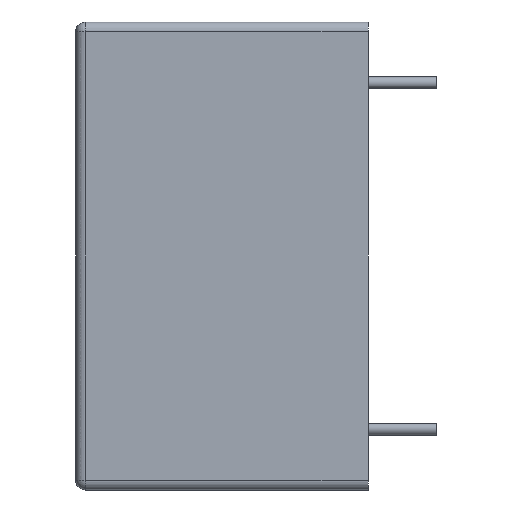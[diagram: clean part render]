
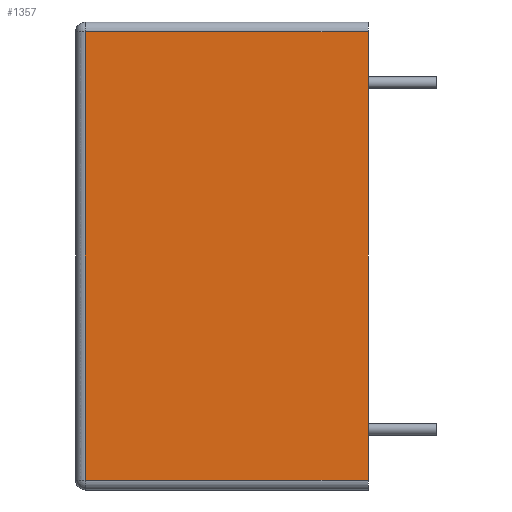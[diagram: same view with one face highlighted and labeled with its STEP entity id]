
A CAD part, left-side view. The second image highlights one B-rep face of the part: STEP entity #1357.
In plain terms, the highlighted planar face has unit normal (-1, 0, 0).
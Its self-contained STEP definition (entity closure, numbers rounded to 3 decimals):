
#667 = EDGE_CURVE('',#668,#670,#672,.T.);
#668 = VERTEX_POINT('',#669);
#669 = CARTESIAN_POINT('',(0.,0.,11.5));
#670 = VERTEX_POINT('',#671);
#671 = CARTESIAN_POINT('',(0.,0.,-11.5));
#672 = LINE('',#673,#674);
#673 = CARTESIAN_POINT('',(0.,0.,12.));
#674 = VECTOR('',#675,1.);
#675 = DIRECTION('',(-0.,-0.,-1.));
#1357 = ADVANCED_FACE('',(#1358),#1383,.F.);
#1358 = FACE_BOUND('',#1359,.T.);
#1359 = EDGE_LOOP('',(#1360,#1370,#1376,#1377));
#1360 = ORIENTED_EDGE('',*,*,#1361,.T.);
#1361 = EDGE_CURVE('',#1362,#1364,#1366,.T.);
#1362 = VERTEX_POINT('',#1363);
#1363 = CARTESIAN_POINT('',(0.,14.5,11.5));
#1364 = VERTEX_POINT('',#1365);
#1365 = CARTESIAN_POINT('',(0.,14.5,-11.5));
#1366 = LINE('',#1367,#1368);
#1367 = CARTESIAN_POINT('',(0.,14.5,12.));
#1368 = VECTOR('',#1369,1.);
#1369 = DIRECTION('',(0.,0.,-1.));
#1370 = ORIENTED_EDGE('',*,*,#1371,.T.);
#1371 = EDGE_CURVE('',#1364,#670,#1372,.T.);
#1372 = LINE('',#1373,#1374);
#1373 = CARTESIAN_POINT('',(0.,0.,-11.5));
#1374 = VECTOR('',#1375,1.);
#1375 = DIRECTION('',(0.,-1.,0.));
#1376 = ORIENTED_EDGE('',*,*,#667,.F.);
#1377 = ORIENTED_EDGE('',*,*,#1378,.T.);
#1378 = EDGE_CURVE('',#668,#1362,#1379,.T.);
#1379 = LINE('',#1380,#1381);
#1380 = CARTESIAN_POINT('',(0.,0.,11.5));
#1381 = VECTOR('',#1382,1.);
#1382 = DIRECTION('',(0.,1.,0.));
#1383 = PLANE('',#1384);
#1384 = AXIS2_PLACEMENT_3D('',#1385,#1386,#1387);
#1385 = CARTESIAN_POINT('',(0.,0.,12.));
#1386 = DIRECTION('',(1.,0.,0.));
#1387 = DIRECTION('',(0.,0.,-1.));
